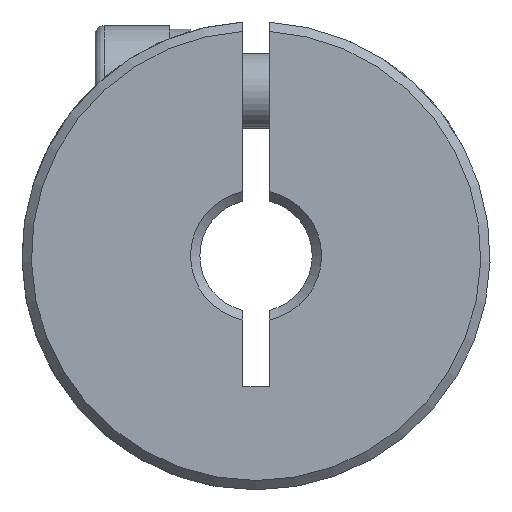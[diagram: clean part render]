
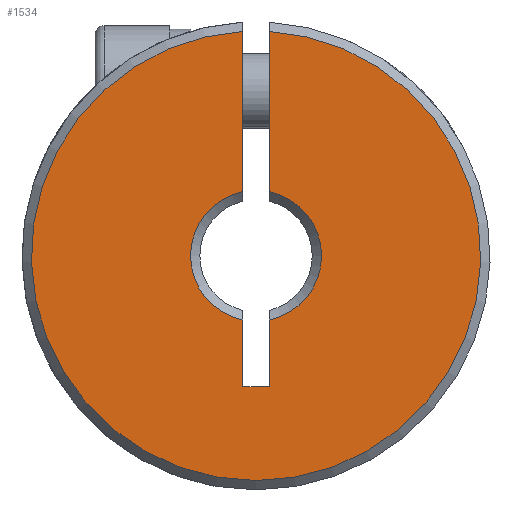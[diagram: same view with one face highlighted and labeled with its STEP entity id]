
A CAD part, front view. The second image highlights one B-rep face of the part: STEP entity #1534.
In plain terms, the highlighted planar face has unit normal (0, -1, 0).
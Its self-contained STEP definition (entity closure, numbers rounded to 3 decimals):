
#16 = VECTOR ( 'NONE', #355, 1000. ) ;
#55 = EDGE_CURVE ( 'NONE', #1970, #1541, #2142, .T. ) ;
#80 = EDGE_CURVE ( 'NONE', #1931, #1541, #348, .T. ) ;
#98 = EDGE_CURVE ( 'NONE', #1970, #361, #2178, .T. ) ;
#182 = CARTESIAN_POINT ( 'NONE',  ( 0., 0.25, 0. ) ) ;
#213 = EDGE_CURVE ( 'NONE', #2027, #361, #3468, .T. ) ;
#248 = ORIENTED_EDGE ( 'NONE', *, *, #1868, .T. ) ;
#307 = DIRECTION ( 'NONE',  ( 0., 0., 1. ) ) ;
#312 = CARTESIAN_POINT ( 'NONE',  ( 0.7, 0.25, -7. ) ) ;
#348 = LINE ( 'NONE', #2116, #2791 ) ;
#355 = DIRECTION ( 'NONE',  ( 1., 0., 0. ) ) ;
#361 = VERTEX_POINT ( 'NONE', #505 ) ;
#374 = DIRECTION ( 'NONE',  ( 0., 0., -1. ) ) ;
#379 = LINE ( 'NONE', #312, #805 ) ;
#389 = ORIENTED_EDGE ( 'NONE', *, *, #1289, .F. ) ;
#505 = CARTESIAN_POINT ( 'NONE',  ( -0.7, 0.25, 3.429 ) ) ;
#550 = LINE ( 'NONE', #1991, #16 ) ;
#556 = CARTESIAN_POINT ( 'NONE',  ( 0.7, 0.25, -3.429 ) ) ;
#640 = DIRECTION ( 'NONE',  ( 0., 0., 1. ) ) ;
#759 = DIRECTION ( 'NONE',  ( 0., 0., 1. ) ) ;
#785 = ORIENTED_EDGE ( 'NONE', *, *, #213, .T. ) ;
#805 = VECTOR ( 'NONE', #2985, 1000. ) ;
#964 = CARTESIAN_POINT ( 'NONE',  ( -0.7, 0.25, -7. ) ) ;
#981 = CARTESIAN_POINT ( 'NONE',  ( -0.7, 0.25, -7. ) ) ;
#1032 = CARTESIAN_POINT ( 'NONE',  ( -0.7, 0.25, -7. ) ) ;
#1040 = ORIENTED_EDGE ( 'NONE', *, *, #80, .F. ) ;
#1090 = AXIS2_PLACEMENT_3D ( 'NONE', #182, #3141, #3389 ) ;
#1113 = ORIENTED_EDGE ( 'NONE', *, *, #1339, .F. ) ;
#1136 = ORIENTED_EDGE ( 'NONE', *, *, #1452, .F. ) ;
#1289 = EDGE_CURVE ( 'NONE', #2418, #3476, #550, .T. ) ;
#1339 = EDGE_CURVE ( 'NONE', #2027, #2418, #2284, .T. ) ;
#1345 = CARTESIAN_POINT ( 'NONE',  ( 0.7, 0.25, -7. ) ) ;
#1452 = EDGE_CURVE ( 'NONE', #3476, #2987, #379, .T. ) ;
#1534 = ADVANCED_FACE ( 'NONE', ( #1611 ), #1978, .F. ) ;
#1541 = VERTEX_POINT ( 'NONE', #3058 ) ;
#1579 = DIRECTION ( 'NONE',  ( 0., -1., 0. ) ) ;
#1611 = FACE_OUTER_BOUND ( 'NONE', #2543, .T. ) ;
#1621 = AXIS2_PLACEMENT_3D ( 'NONE', #3181, #1579, #759 ) ;
#1868 = EDGE_CURVE ( 'NONE', #1931, #2987, #2780, .T. ) ;
#1931 = VERTEX_POINT ( 'NONE', #1986 ) ;
#1963 = DIRECTION ( 'NONE',  ( 0., 1., 0. ) ) ;
#1970 = VERTEX_POINT ( 'NONE', #2572 ) ;
#1978 = PLANE ( 'NONE',  #3008 ) ;
#1986 = CARTESIAN_POINT ( 'NONE',  ( 0.7, 0.25, 3.429 ) ) ;
#1991 = CARTESIAN_POINT ( 'NONE',  ( 0.7, 0.25, -7. ) ) ;
#2027 = VERTEX_POINT ( 'NONE', #3356 ) ;
#2116 = CARTESIAN_POINT ( 'NONE',  ( 0.7, 0.25, -7. ) ) ;
#2142 = CIRCLE ( 'NONE', #1621, 12. ) ;
#2178 = LINE ( 'NONE', #1032, #2701 ) ;
#2284 = LINE ( 'NONE', #964, #2784 ) ;
#2345 = DIRECTION ( 'NONE',  ( 0., 0., -1. ) ) ;
#2418 = VERTEX_POINT ( 'NONE', #981 ) ;
#2437 = ORIENTED_EDGE ( 'NONE', *, *, #98, .F. ) ;
#2543 = EDGE_LOOP ( 'NONE', ( #1040, #248, #1136, #389, #1113, #785, #2437, #3323 ) ) ;
#2572 = CARTESIAN_POINT ( 'NONE',  ( -0.7, 0.25, 11.98 ) ) ;
#2701 = VECTOR ( 'NONE', #2345, 1000. ) ;
#2741 = CARTESIAN_POINT ( 'NONE',  ( 12.5, 0.25, -50. ) ) ;
#2780 = CIRCLE ( 'NONE', #3033, 3.5 ) ;
#2784 = VECTOR ( 'NONE', #374, 1000. ) ;
#2791 = VECTOR ( 'NONE', #3401, 1000. ) ;
#2970 = DIRECTION ( 'NONE',  ( 0., 1., 0. ) ) ;
#2985 = DIRECTION ( 'NONE',  ( 0., 0., 1. ) ) ;
#2987 = VERTEX_POINT ( 'NONE', #556 ) ;
#3008 = AXIS2_PLACEMENT_3D ( 'NONE', #2741, #1963, #640 ) ;
#3033 = AXIS2_PLACEMENT_3D ( 'NONE', #3256, #2970, #307 ) ;
#3058 = CARTESIAN_POINT ( 'NONE',  ( 0.7, 0.25, 11.98 ) ) ;
#3141 = DIRECTION ( 'NONE',  ( 0., 1., 0. ) ) ;
#3181 = CARTESIAN_POINT ( 'NONE',  ( 0., 0.25, 0. ) ) ;
#3256 = CARTESIAN_POINT ( 'NONE',  ( 0., 0.25, 0. ) ) ;
#3323 = ORIENTED_EDGE ( 'NONE', *, *, #55, .T. ) ;
#3356 = CARTESIAN_POINT ( 'NONE',  ( -0.7, 0.25, -3.429 ) ) ;
#3389 = DIRECTION ( 'NONE',  ( 0., 0., 1. ) ) ;
#3401 = DIRECTION ( 'NONE',  ( 0., 0., 1. ) ) ;
#3468 = CIRCLE ( 'NONE', #1090, 3.5 ) ;
#3476 = VERTEX_POINT ( 'NONE', #1345 ) ;
